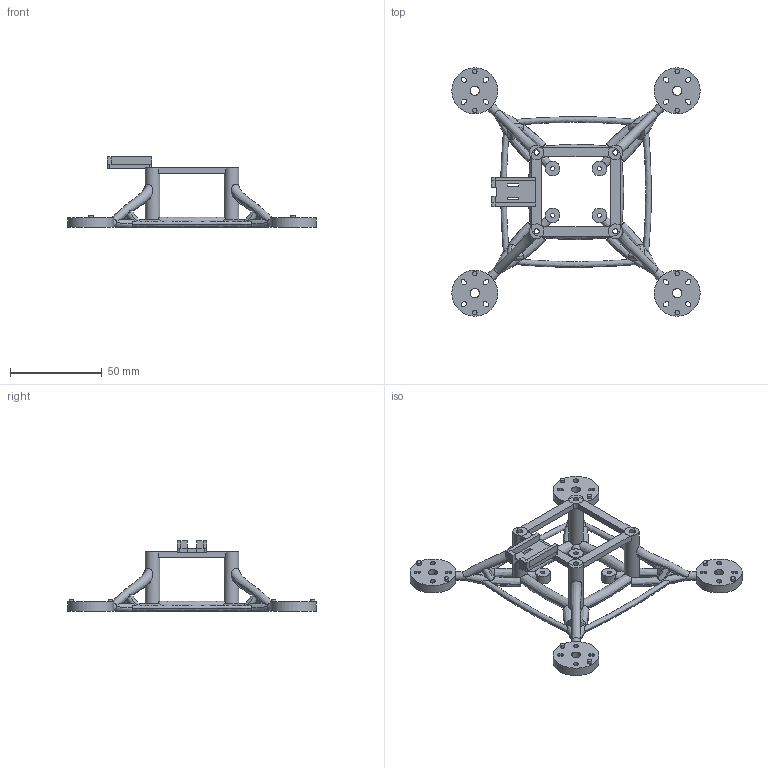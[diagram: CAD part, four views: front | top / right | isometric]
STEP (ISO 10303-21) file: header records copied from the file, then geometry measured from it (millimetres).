
FILE_DESCRIPTION(('Open CASCADE Model'),'2;1');
FILE_NAME('Open CASCADE Shape Model','2026-10-11T20:53:49',('Author'),( 'Open CASCADE'),'Open CASCADE STEP processor 7.8','Open CASCADE 7.8' ,'Unknown');
FILE_SCHEMA(('AUTOMOTIVE_DESIGN { 1 0 10303 214 1 1 1 1 }'));
Products named in the file (1): Open CASCADE STEP translator 7.8 1
Bounding box: 135 x 135 x 38.2 mm (x, y, z)
Volume: 31915.8 mm3; surface area: 25641.5 mm2
Topology: 1 solids, 1 shells, 422 faces, 1204 edges, 748 vertices
Faces by surface type: plane 200, cylinder 118, bspline 104
Full cylindrical faces by diameter (mm): 2.3 x4, 2.4 x8, 2.9 x4, 4.8 x4, 5 x4, 8 x4, 25 x4
Entity records: 115678 total; most frequent: CARTESIAN_POINT 95330, DIRECTION 2701, ORIENTED_EDGE 2392, PCURVE 2392, DEFINITIONAL_REPRESENTATION 2392, B_SPLINE_CURVE_WITH_KNOTS 1584, LINE 1410, VECTOR 1410
